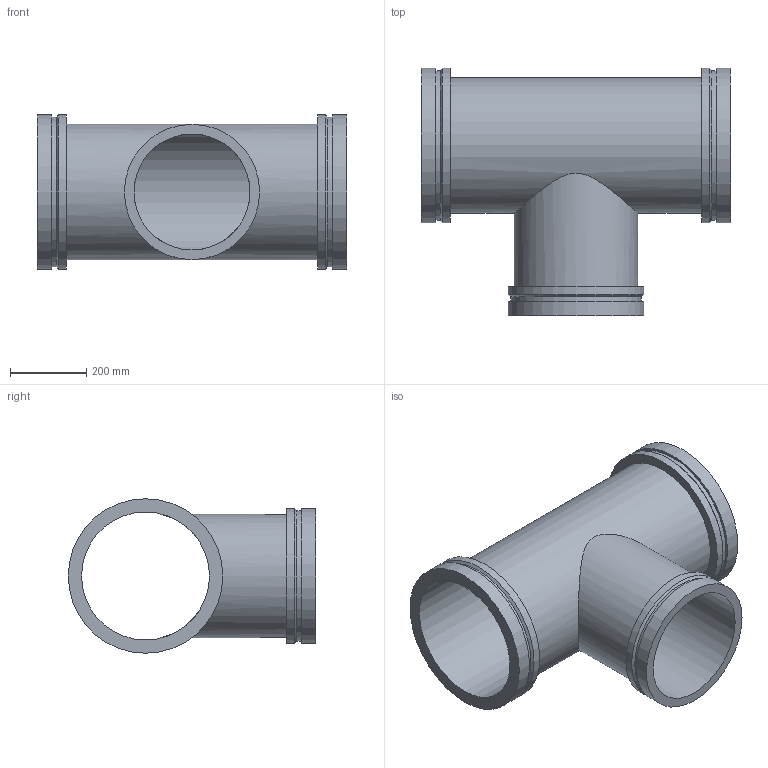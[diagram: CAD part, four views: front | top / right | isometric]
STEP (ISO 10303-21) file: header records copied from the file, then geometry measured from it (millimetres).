
FILE_DESCRIPTION(/* description */ ('VIC REDUCING TEE No W025 VR','CAx-IF Rec.Pracs.---Representation and Presentation of Product Manufacturing Information (PMI)---4.0---2014-10-13'),/* implementation_level */ '2;1');
FILE_NAME(/* name */ 'C:\Users\kkamble\AppData\Roaming\Autodesk\ApplicationPlugins\Back Up\Victaulic_Vic-Ring_Tee Reducing_No W25 VR (AGR)\Victaulic_Vic-Ring_Tee Reducing_No W25 VR (AGR)_14.0x12.0 (350x300).stp',/* time_stamp */ '2020-09-10T11:52:28+05:00',/* author */ ('mchristi'),/* organization */ ('Victaulic'),/* preprocessor_version */ 'ST-DEVELOPER v17.2',/* originating_system */ 'Autodesk Inventor 2019',/* authorisation */ '');
FILE_SCHEMA (('AP242_MANAGED_MODEL_BASED_3D_ENGINEERING_MIM_LF { 1 0 10303 442 1 1 4 }'));
Length unit declared in the file: inch
Products named in the file (1): W25 VR-14.0x12.0
Bounding box: 812.8 x 650.75 x 406.4 mm (x, y, z)
Volume: 16161529.3 mm3; surface area: 2466802.2 mm2
Topology: 1 solids, 1 shells, 25 faces, 68 edges, 52 vertices
Faces by surface type: cylinder 13, plane 9, cone 3
Full cylindrical faces by diameter (mm): 304.8 x1, 323.85 x1, 336.55 x1, 342.9 x1, 355.6 x3, 393.7 x2, 406.4 x4
Entity records: 1211 total; most frequent: CARTESIAN_POINT 367, DIRECTION 190, ORIENTED_EDGE 136, AXIS2_PLACEMENT_3D 87, EDGE_CURVE 68, VERTEX_POINT 52, CIRCLE 48, EDGE_LOOP 36
